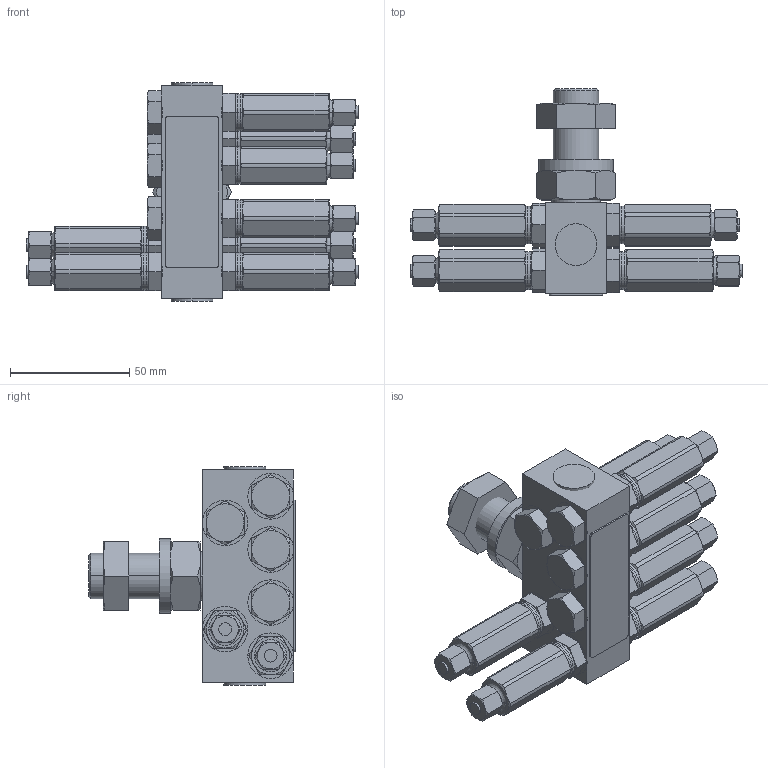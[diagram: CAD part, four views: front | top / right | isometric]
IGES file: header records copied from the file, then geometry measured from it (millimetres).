
Start section:  PTC IGES file: 25c857-en-b.igs
Global section: file name: 25c857-en-b.igs; native system: Creo Parametric by PTC Inc.; preprocessor: 2019030; author: qusrh3; organization: Unknown; date: 20191231.193402; units: inch
Bounding box: 138.94 x 86.39 x 91.34 mm (x, y, z)
Surface area: 55764 mm2 (no closed solid volume)
Topology: 0 solids, 0 shells, 570 faces, 2508 edges, 2496 vertices
Faces by surface type: revolution 309, bspline 261
